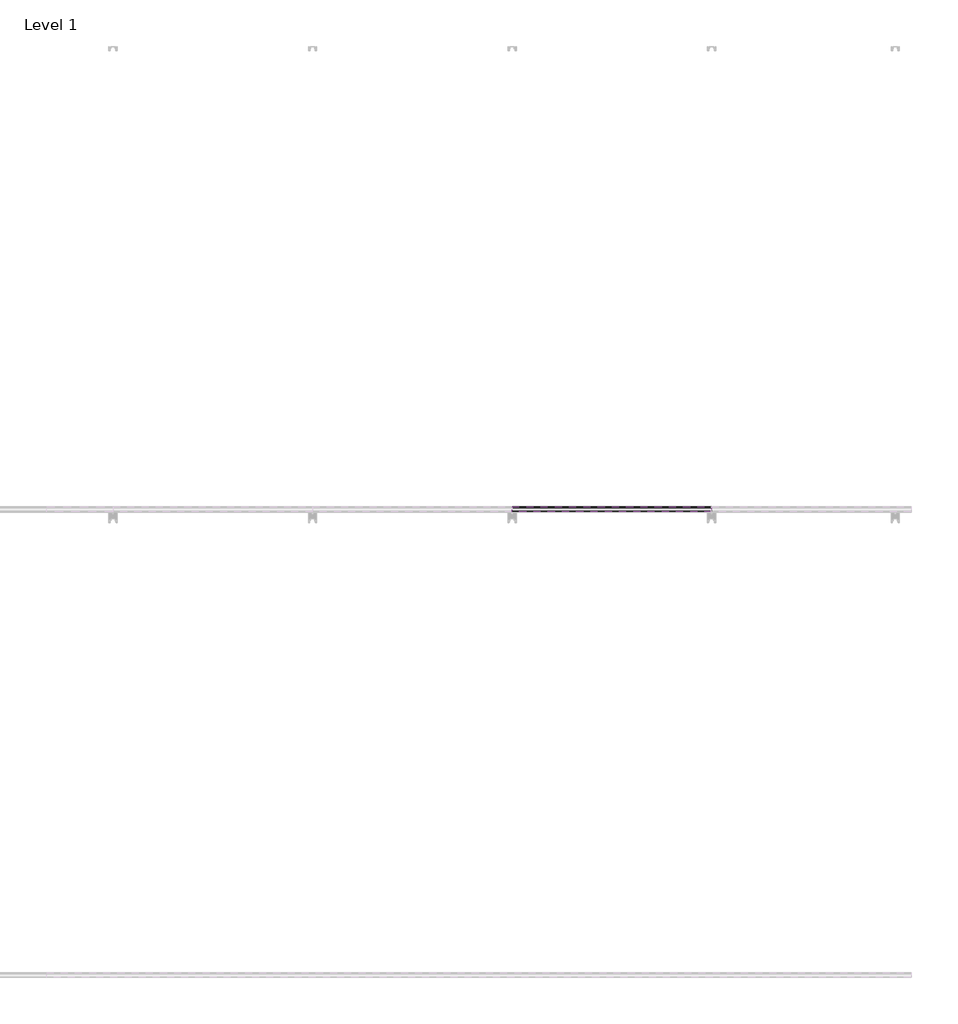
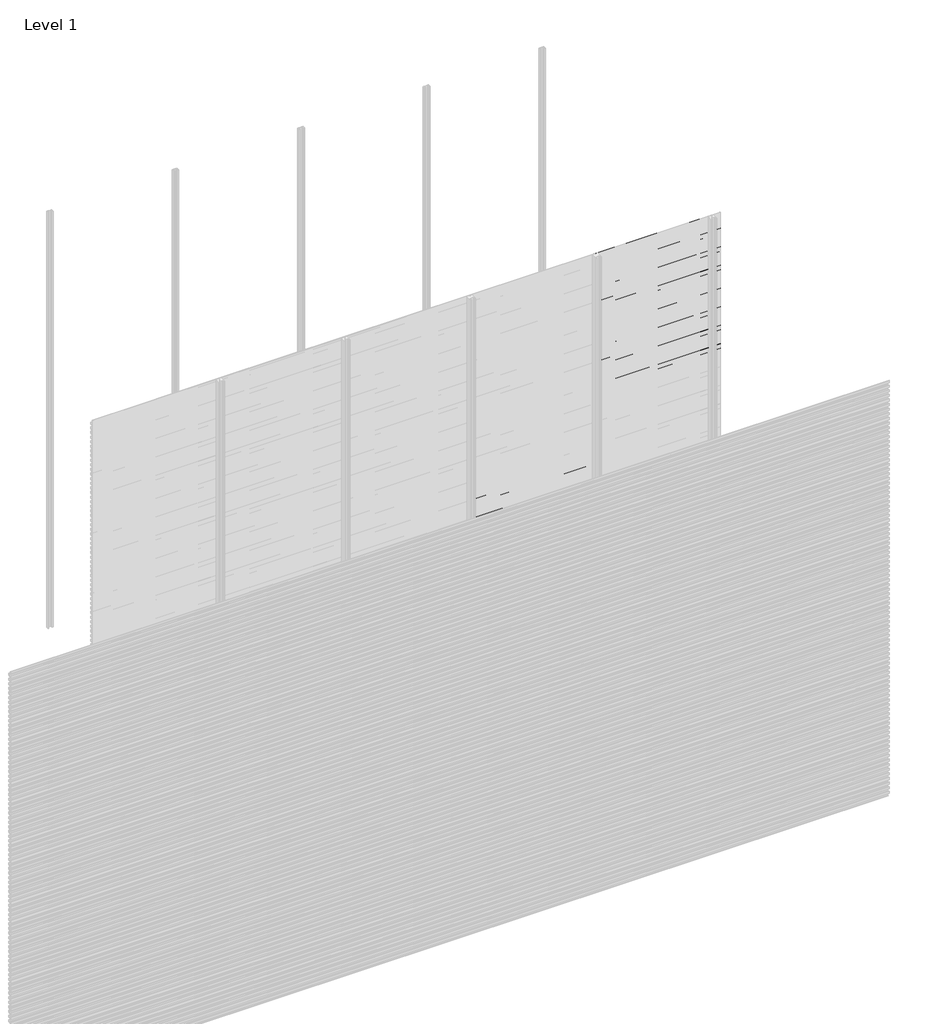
# One storey, part 77 of 96: 77 proxies.
"""IFC4 building model written with IfcOpenShell, lengths in millimetres."""

from ifc_helpers import new_model, si_unit, frame, origin, place, context, project, spatial, polyline, outline, extrude, element, save

model = new_model("IFC4")

# Units and contexts
model_context = context("Model", 3, world=origin())
ifc_project = project(units=[si_unit("LENGTHUNIT", "METRE", prefix="MILLI")], contexts=[model_context])

# Site, building, storey
site = spatial("IfcSite", under=ifc_project)
building = spatial("IfcBuilding", under=site)
storey = spatial("IfcBuildingStorey", under=building, Name="Level 1", Elevation=0.0)

# Proxies
placement = place(None, origin())
element("IfcBuildingElementProxy", 1, Name="Wall Sweeps", at=placement, inside=storey, context=model_context, shape_type="SweptSolid", body=[
    extrude(outline(polyline([(-11977.6, 1539.8655033), (-11977.6, 1525.5779188), (-11982.4114965, 1522.8), (-11982.4114965, 1524.0701706), (-11978.85, 1526.1264016), (-11978.85, 1539.1437382), (-11998.0, 1550.2000799), (-11998.0, 1565.1), (-11996.75, 1565.1), (-11996.75, 1550.9217609), (-11977.6, 1539.8655033)])), frame((4285.7142857, 0.0, 0.0), z_axis=(1.0, 0.0, 0.0), x_axis=(0.0, 1.0, 0.0)), (0.0, 0.0, 1.0), 857.1428571),
])
element("IfcBuildingElementProxy", 2, Name="Wall Sweeps", at=placement, inside=storey, context=model_context, shape_type="SweptSolid", body=[
    extrude(outline(polyline([(-11977.6, 1506.5655033), (-11977.6, 1492.2779188), (-11982.4114965, 1489.5), (-11982.4114965, 1490.7701706), (-11978.85, 1492.8264016), (-11978.85, 1505.8437382), (-11998.0, 1516.9000799), (-11998.0, 1531.8), (-11996.75, 1531.8), (-11996.75, 1517.6217609), (-11977.6, 1506.5655033)])), frame((4285.7142857, 0.0, 0.0), z_axis=(1.0, 0.0, 0.0), x_axis=(0.0, 1.0, 0.0)), (0.0, 0.0, 1.0), 857.1428571),
])
element("IfcBuildingElementProxy", 3, Name="Wall Sweeps", at=placement, inside=storey, context=model_context, shape_type="SweptSolid", body=[
    extrude(outline(polyline([(-11977.6, 1473.2655033), (-11977.6, 1458.9779188), (-11982.4114965, 1456.2), (-11982.4114965, 1457.4701706), (-11978.85, 1459.5264016), (-11978.85, 1472.5437382), (-11998.0, 1483.6000799), (-11998.0, 1498.5), (-11996.75, 1498.5), (-11996.75, 1484.3217609), (-11977.6, 1473.2655033)])), frame((4285.7142857, 0.0, 0.0), z_axis=(1.0, 0.0, 0.0), x_axis=(0.0, 1.0, 0.0)), (0.0, 0.0, 1.0), 857.1428571),
])
element("IfcBuildingElementProxy", 4, Name="Wall Sweeps", at=placement, inside=storey, context=model_context, shape_type="SweptSolid", body=[
    extrude(outline(polyline([(-11977.6, 1439.9655033), (-11977.6, 1425.6779188), (-11982.4114965, 1422.9), (-11982.4114965, 1424.1701706), (-11978.85, 1426.2264016), (-11978.85, 1439.2437382), (-11998.0, 1450.3000799), (-11998.0, 1465.2), (-11996.75, 1465.2), (-11996.75, 1451.0217609), (-11977.6, 1439.9655033)])), frame((4285.7142857, 0.0, 0.0), z_axis=(1.0, 0.0, 0.0), x_axis=(0.0, 1.0, 0.0)), (0.0, 0.0, 1.0), 857.1428571),
])
element("IfcBuildingElementProxy", 5, Name="Wall Sweeps", at=placement, inside=storey, context=model_context, shape_type="SweptSolid", body=[
    extrude(outline(polyline([(-11977.6, 1406.6655033), (-11977.6, 1392.3779188), (-11982.4114965, 1389.6), (-11982.4114965, 1390.8701706), (-11978.85, 1392.9264016), (-11978.85, 1405.9437382), (-11998.0, 1417.0000799), (-11998.0, 1431.9), (-11996.75, 1431.9), (-11996.75, 1417.7217609), (-11977.6, 1406.6655033)])), frame((4285.7142857, 0.0, 0.0), z_axis=(1.0, 0.0, 0.0), x_axis=(0.0, 1.0, 0.0)), (0.0, 0.0, 1.0), 857.1428571),
])
element("IfcBuildingElementProxy", 6, Name="Wall Sweeps", at=placement, inside=storey, context=model_context, shape_type="SweptSolid", body=[
    extrude(outline(polyline([(-11977.6, 1373.3655033), (-11977.6, 1359.0779188), (-11982.4114965, 1356.3), (-11982.4114965, 1357.5701706), (-11978.85, 1359.6264016), (-11978.85, 1372.6437382), (-11998.0, 1383.7000799), (-11998.0, 1398.6), (-11996.75, 1398.6), (-11996.75, 1384.4217609), (-11977.6, 1373.3655033)])), frame((4285.7142857, 0.0, 0.0), z_axis=(1.0, 0.0, 0.0), x_axis=(0.0, 1.0, 0.0)), (0.0, 0.0, 1.0), 857.1428571),
])
element("IfcBuildingElementProxy", 7, Name="Wall Sweeps", at=placement, inside=storey, context=model_context, shape_type="SweptSolid", body=[
    extrude(outline(polyline([(-11977.6, 1340.0655033), (-11977.6, 1325.7779188), (-11982.4114965, 1323.0), (-11982.4114965, 1324.2701706), (-11978.85, 1326.3264016), (-11978.85, 1339.3437382), (-11998.0, 1350.4000799), (-11998.0, 1365.3), (-11996.75, 1365.3), (-11996.75, 1351.1217609), (-11977.6, 1340.0655033)])), frame((4285.7142857, 0.0, 0.0), z_axis=(1.0, 0.0, 0.0), x_axis=(0.0, 1.0, 0.0)), (0.0, 0.0, 1.0), 857.1428571),
])
element("IfcBuildingElementProxy", 8, Name="Wall Sweeps", at=placement, inside=storey, context=model_context, shape_type="SweptSolid", body=[
    extrude(outline(polyline([(-11977.6, 1306.7655033), (-11977.6, 1292.4779188), (-11982.4114965, 1289.7), (-11982.4114965, 1290.9701706), (-11978.85, 1293.0264016), (-11978.85, 1306.0437382), (-11998.0, 1317.1000799), (-11998.0, 1332.0), (-11996.75, 1332.0), (-11996.75, 1317.8217609), (-11977.6, 1306.7655033)])), frame((4285.7142857, 0.0, 0.0), z_axis=(1.0, 0.0, 0.0), x_axis=(0.0, 1.0, 0.0)), (0.0, 0.0, 1.0), 857.1428571),
])
element("IfcBuildingElementProxy", 9, Name="Wall Sweeps", at=placement, inside=storey, context=model_context, shape_type="SweptSolid", body=[
    extrude(outline(polyline([(-11977.6, 1273.4655033), (-11977.6, 1259.1779188), (-11982.4114965, 1256.4), (-11982.4114965, 1257.6701706), (-11978.85, 1259.7264016), (-11978.85, 1272.7437382), (-11998.0, 1283.8000799), (-11998.0, 1298.7), (-11996.75, 1298.7), (-11996.75, 1284.5217609), (-11977.6, 1273.4655033)])), frame((4285.7142857, 0.0, 0.0), z_axis=(1.0, 0.0, 0.0), x_axis=(0.0, 1.0, 0.0)), (0.0, 0.0, 1.0), 857.1428571),
])
element("IfcBuildingElementProxy", 10, Name="Wall Sweeps", at=placement, inside=storey, context=model_context, shape_type="SweptSolid", body=[
    extrude(outline(polyline([(-11977.6, 1240.1655033), (-11977.6, 1225.8779188), (-11982.4114965, 1223.1), (-11982.4114965, 1224.3701706), (-11978.85, 1226.4264016), (-11978.85, 1239.4437382), (-11998.0, 1250.5000799), (-11998.0, 1265.4), (-11996.75, 1265.4), (-11996.75, 1251.2217609), (-11977.6, 1240.1655033)])), frame((4285.7142857, 0.0, 0.0), z_axis=(1.0, 0.0, 0.0), x_axis=(0.0, 1.0, 0.0)), (0.0, 0.0, 1.0), 857.1428571),
])
element("IfcBuildingElementProxy", 11, Name="Wall Sweeps", at=placement, inside=storey, context=model_context, shape_type="SweptSolid", body=[
    extrude(outline(polyline([(-11977.6, 1206.8655033), (-11977.6, 1192.5779188), (-11982.4114965, 1189.8), (-11982.4114965, 1191.0701706), (-11978.85, 1193.1264016), (-11978.85, 1206.1437382), (-11998.0, 1217.2000799), (-11998.0, 1232.1), (-11996.75, 1232.1), (-11996.75, 1217.9217609), (-11977.6, 1206.8655033)])), frame((4285.7142857, 0.0, 0.0), z_axis=(1.0, 0.0, 0.0), x_axis=(0.0, 1.0, 0.0)), (0.0, 0.0, 1.0), 857.1428571),
])
element("IfcBuildingElementProxy", 12, Name="Wall Sweeps", at=placement, inside=storey, context=model_context, shape_type="SweptSolid", body=[
    extrude(outline(polyline([(-11977.6, 1173.5655033), (-11977.6, 1159.2779188), (-11982.4114965, 1156.5), (-11982.4114965, 1157.7701706), (-11978.85, 1159.8264016), (-11978.85, 1172.8437382), (-11998.0, 1183.9000799), (-11998.0, 1198.8), (-11996.75, 1198.8), (-11996.75, 1184.6217609), (-11977.6, 1173.5655033)])), frame((4285.7142857, 0.0, 0.0), z_axis=(1.0, 0.0, 0.0), x_axis=(0.0, 1.0, 0.0)), (0.0, 0.0, 1.0), 857.1428571),
])
element("IfcBuildingElementProxy", 13, Name="Wall Sweeps", at=placement, inside=storey, context=model_context, shape_type="SweptSolid", body=[
    extrude(outline(polyline([(-11977.6, 1140.2655033), (-11977.6, 1125.9779188), (-11982.4114965, 1123.2), (-11982.4114965, 1124.4701706), (-11978.85, 1126.5264016), (-11978.85, 1139.5437382), (-11998.0, 1150.6000799), (-11998.0, 1165.5), (-11996.75, 1165.5), (-11996.75, 1151.3217609), (-11977.6, 1140.2655033)])), frame((4285.7142857, 0.0, 0.0), z_axis=(1.0, 0.0, 0.0), x_axis=(0.0, 1.0, 0.0)), (0.0, 0.0, 1.0), 857.1428571),
])
element("IfcBuildingElementProxy", 14, Name="Wall Sweeps", at=placement, inside=storey, context=model_context, shape_type="SweptSolid", body=[
    extrude(outline(polyline([(-11977.6, 1106.9655033), (-11977.6, 1092.6779188), (-11982.4114965, 1089.9), (-11982.4114965, 1091.1701706), (-11978.85, 1093.2264016), (-11978.85, 1106.2437382), (-11998.0, 1117.3000799), (-11998.0, 1132.2), (-11996.75, 1132.2), (-11996.75, 1118.0217609), (-11977.6, 1106.9655033)])), frame((4285.7142857, 0.0, 0.0), z_axis=(1.0, 0.0, 0.0), x_axis=(0.0, 1.0, 0.0)), (0.0, 0.0, 1.0), 857.1428571),
])
element("IfcBuildingElementProxy", 15, Name="Wall Sweeps", at=placement, inside=storey, context=model_context, shape_type="SweptSolid", body=[
    extrude(outline(polyline([(-11977.6, 1073.6655033), (-11977.6, 1059.3779188), (-11982.4114965, 1056.6), (-11982.4114965, 1057.8701706), (-11978.85, 1059.9264016), (-11978.85, 1072.9437382), (-11998.0, 1084.0000799), (-11998.0, 1098.9), (-11996.75, 1098.9), (-11996.75, 1084.7217609), (-11977.6, 1073.6655033)])), frame((4285.7142857, 0.0, 0.0), z_axis=(1.0, 0.0, 0.0), x_axis=(0.0, 1.0, 0.0)), (0.0, 0.0, 1.0), 857.1428571),
])
element("IfcBuildingElementProxy", 16, Name="Wall Sweeps", at=placement, inside=storey, context=model_context, shape_type="SweptSolid", body=[
    extrude(outline(polyline([(-11977.6, 1040.3655033), (-11977.6, 1026.0779188), (-11982.4114965, 1023.3), (-11982.4114965, 1024.5701706), (-11978.85, 1026.6264016), (-11978.85, 1039.6437382), (-11998.0, 1050.7000799), (-11998.0, 1065.6), (-11996.75, 1065.6), (-11996.75, 1051.4217609), (-11977.6, 1040.3655033)])), frame((4285.7142857, 0.0, 0.0), z_axis=(1.0, 0.0, 0.0), x_axis=(0.0, 1.0, 0.0)), (0.0, 0.0, 1.0), 857.1428571),
])
element("IfcBuildingElementProxy", 17, Name="Wall Sweeps", at=placement, inside=storey, context=model_context, shape_type="SweptSolid", body=[
    extrude(outline(polyline([(-11977.6, 1007.0655033), (-11977.6, 992.7779188), (-11982.4114965, 990.0), (-11982.4114965, 991.2701706), (-11978.85, 993.3264016), (-11978.85, 1006.3437382), (-11998.0, 1017.4000799), (-11998.0, 1032.3), (-11996.75, 1032.3), (-11996.75, 1018.1217609), (-11977.6, 1007.0655033)])), frame((4285.7142857, 0.0, 0.0), z_axis=(1.0, 0.0, 0.0), x_axis=(0.0, 1.0, 0.0)), (0.0, 0.0, 1.0), 857.1428571),
])
element("IfcBuildingElementProxy", 18, Name="Wall Sweeps", at=placement, inside=storey, context=model_context, shape_type="SweptSolid", body=[
    extrude(outline(polyline([(-11977.6, 973.7655033), (-11977.6, 959.4779188), (-11982.4114965, 956.7), (-11982.4114965, 957.9701706), (-11978.85, 960.0264016), (-11978.85, 973.0437382), (-11998.0, 984.1000799), (-11998.0, 999.0), (-11996.75, 999.0), (-11996.75, 984.8217609), (-11977.6, 973.7655033)])), frame((4285.7142857, 0.0, 0.0), z_axis=(1.0, 0.0, 0.0), x_axis=(0.0, 1.0, 0.0)), (0.0, 0.0, 1.0), 857.1428571),
])
element("IfcBuildingElementProxy", 19, Name="Wall Sweeps", at=placement, inside=storey, context=model_context, shape_type="SweptSolid", body=[
    extrude(outline(polyline([(-11977.6, 940.4655033), (-11977.6, 926.1779188), (-11982.4114965, 923.4), (-11982.4114965, 924.6701706), (-11978.85, 926.7264016), (-11978.85, 939.7437382), (-11998.0, 950.8000799), (-11998.0, 965.7), (-11996.75, 965.7), (-11996.75, 951.5217609), (-11977.6, 940.4655033)])), frame((4285.7142857, 0.0, 0.0), z_axis=(1.0, 0.0, 0.0), x_axis=(0.0, 1.0, 0.0)), (0.0, 0.0, 1.0), 857.1428571),
])
element("IfcBuildingElementProxy", 20, Name="Wall Sweeps", at=placement, inside=storey, context=model_context, shape_type="SweptSolid", body=[
    extrude(outline(polyline([(-11977.6, 907.1655033), (-11977.6, 892.8779188), (-11982.4114965, 890.1), (-11982.4114965, 891.3701706), (-11978.85, 893.4264016), (-11978.85, 906.4437382), (-11998.0, 917.5000799), (-11998.0, 932.4), (-11996.75, 932.4), (-11996.75, 918.2217609), (-11977.6, 907.1655033)])), frame((4285.7142857, 0.0, 0.0), z_axis=(1.0, 0.0, 0.0), x_axis=(0.0, 1.0, 0.0)), (0.0, 0.0, 1.0), 857.1428571),
])
element("IfcBuildingElementProxy", 21, Name="Wall Sweeps", at=placement, inside=storey, context=model_context, shape_type="SweptSolid", body=[
    extrude(outline(polyline([(-11977.6, 873.8655033), (-11977.6, 859.5779188), (-11982.4114965, 856.8), (-11982.4114965, 858.0701706), (-11978.85, 860.1264016), (-11978.85, 873.1437382), (-11998.0, 884.2000799), (-11998.0, 899.1), (-11996.75, 899.1), (-11996.75, 884.9217609), (-11977.6, 873.8655033)])), frame((4285.7142857, 0.0, 0.0), z_axis=(1.0, 0.0, 0.0), x_axis=(0.0, 1.0, 0.0)), (0.0, 0.0, 1.0), 857.1428571),
])
element("IfcBuildingElementProxy", 22, Name="Wall Sweeps", at=placement, inside=storey, context=model_context, shape_type="SweptSolid", body=[
    extrude(outline(polyline([(-11977.6, 840.5655033), (-11977.6, 826.2779188), (-11982.4114965, 823.5), (-11982.4114965, 824.7701706), (-11978.85, 826.8264016), (-11978.85, 839.8437382), (-11998.0, 850.9000799), (-11998.0, 865.8), (-11996.75, 865.8), (-11996.75, 851.6217609), (-11977.6, 840.5655033)])), frame((4285.7142857, 0.0, 0.0), z_axis=(1.0, 0.0, 0.0), x_axis=(0.0, 1.0, 0.0)), (0.0, 0.0, 1.0), 857.1428571),
])
element("IfcBuildingElementProxy", 23, Name="Wall Sweeps", at=placement, inside=storey, context=model_context, shape_type="SweptSolid", body=[
    extrude(outline(polyline([(-11977.6, 807.2655033), (-11977.6, 792.9779188), (-11982.4114965, 790.2), (-11982.4114965, 791.4701706), (-11978.85, 793.5264016), (-11978.85, 806.5437382), (-11998.0, 817.6000799), (-11998.0, 832.5), (-11996.75, 832.5), (-11996.75, 818.3217609), (-11977.6, 807.2655033)])), frame((4285.7142857, 0.0, 0.0), z_axis=(1.0, 0.0, 0.0), x_axis=(0.0, 1.0, 0.0)), (0.0, 0.0, 1.0), 857.1428571),
])
element("IfcBuildingElementProxy", 24, Name="Wall Sweeps", at=placement, inside=storey, context=model_context, shape_type="SweptSolid", body=[
    extrude(outline(polyline([(-11977.6, 773.9655033), (-11977.6, 759.6779188), (-11982.4114965, 756.9), (-11982.4114965, 758.1701706), (-11978.85, 760.2264016), (-11978.85, 773.2437382), (-11998.0, 784.3000799), (-11998.0, 799.2), (-11996.75, 799.2), (-11996.75, 785.0217609), (-11977.6, 773.9655033)])), frame((4285.7142857, 0.0, 0.0), z_axis=(1.0, 0.0, 0.0), x_axis=(0.0, 1.0, 0.0)), (0.0, 0.0, 1.0), 857.1428571),
])
element("IfcBuildingElementProxy", 25, Name="Wall Sweeps", at=placement, inside=storey, context=model_context, shape_type="SweptSolid", body=[
    extrude(outline(polyline([(-11977.6, 740.6655033), (-11977.6, 726.3779188), (-11982.4114965, 723.6), (-11982.4114965, 724.8701706), (-11978.85, 726.9264016), (-11978.85, 739.9437382), (-11998.0, 751.0000799), (-11998.0, 765.9), (-11996.75, 765.9), (-11996.75, 751.7217609), (-11977.6, 740.6655033)])), frame((4285.7142857, 0.0, 0.0), z_axis=(1.0, 0.0, 0.0), x_axis=(0.0, 1.0, 0.0)), (0.0, 0.0, 1.0), 857.1428571),
])
element("IfcBuildingElementProxy", 26, Name="Wall Sweeps", at=placement, inside=storey, context=model_context, shape_type="SweptSolid", body=[
    extrude(outline(polyline([(-11977.6, 707.3655033), (-11977.6, 693.0779188), (-11982.4114965, 690.3), (-11982.4114965, 691.5701706), (-11978.85, 693.6264016), (-11978.85, 706.6437382), (-11998.0, 717.7000799), (-11998.0, 732.6), (-11996.75, 732.6), (-11996.75, 718.4217609), (-11977.6, 707.3655033)])), frame((4285.7142857, 0.0, 0.0), z_axis=(1.0, 0.0, 0.0), x_axis=(0.0, 1.0, 0.0)), (0.0, 0.0, 1.0), 857.1428571),
])
element("IfcBuildingElementProxy", 27, Name="Wall Sweeps", at=placement, inside=storey, context=model_context, shape_type="SweptSolid", body=[
    extrude(outline(polyline([(-11977.6, 674.0655033), (-11977.6, 659.7779188), (-11982.4114965, 657.0), (-11982.4114965, 658.2701706), (-11978.85, 660.3264016), (-11978.85, 673.3437382), (-11998.0, 684.4000799), (-11998.0, 699.3), (-11996.75, 699.3), (-11996.75, 685.1217609), (-11977.6, 674.0655033)])), frame((4285.7142857, 0.0, 0.0), z_axis=(1.0, 0.0, 0.0), x_axis=(0.0, 1.0, 0.0)), (0.0, 0.0, 1.0), 857.1428571),
])
element("IfcBuildingElementProxy", 28, Name="Wall Sweeps", at=placement, inside=storey, context=model_context, shape_type="SweptSolid", body=[
    extrude(outline(polyline([(-11977.6, 640.7655033), (-11977.6, 626.4779188), (-11982.4114965, 623.7), (-11982.4114965, 624.9701706), (-11978.85, 627.0264016), (-11978.85, 640.0437382), (-11998.0, 651.1000799), (-11998.0, 666.0), (-11996.75, 666.0), (-11996.75, 651.8217609), (-11977.6, 640.7655033)])), frame((4285.7142857, 0.0, 0.0), z_axis=(1.0, 0.0, 0.0), x_axis=(0.0, 1.0, 0.0)), (0.0, 0.0, 1.0), 857.1428571),
])
element("IfcBuildingElementProxy", 29, Name="Wall Sweeps", at=placement, inside=storey, context=model_context, shape_type="SweptSolid", body=[
    extrude(outline(polyline([(-11977.6, 607.4655033), (-11977.6, 593.1779188), (-11982.4114965, 590.4), (-11982.4114965, 591.6701706), (-11978.85, 593.7264016), (-11978.85, 606.7437382), (-11998.0, 617.8000799), (-11998.0, 632.7), (-11996.75, 632.7), (-11996.75, 618.5217609), (-11977.6, 607.4655033)])), frame((4285.7142857, 0.0, 0.0), z_axis=(1.0, 0.0, 0.0), x_axis=(0.0, 1.0, 0.0)), (0.0, 0.0, 1.0), 857.1428571),
])
element("IfcBuildingElementProxy", 30, Name="Wall Sweeps", at=placement, inside=storey, context=model_context, shape_type="SweptSolid", body=[
    extrude(outline(polyline([(-11977.6, 574.1655033), (-11977.6, 559.8779188), (-11982.4114965, 557.1), (-11982.4114965, 558.3701706), (-11978.85, 560.4264016), (-11978.85, 573.4437382), (-11998.0, 584.5000799), (-11998.0, 599.4), (-11996.75, 599.4), (-11996.75, 585.2217609), (-11977.6, 574.1655033)])), frame((4285.7142857, 0.0, 0.0), z_axis=(1.0, 0.0, 0.0), x_axis=(0.0, 1.0, 0.0)), (0.0, 0.0, 1.0), 857.1428571),
])
element("IfcBuildingElementProxy", 31, Name="Wall Sweeps", at=placement, inside=storey, context=model_context, shape_type="SweptSolid", body=[
    extrude(outline(polyline([(-11977.6, 540.8655033), (-11977.6, 526.5779188), (-11982.4114965, 523.8), (-11982.4114965, 525.0701706), (-11978.85, 527.1264016), (-11978.85, 540.1437382), (-11998.0, 551.2000799), (-11998.0, 566.1), (-11996.75, 566.1), (-11996.75, 551.9217609), (-11977.6, 540.8655033)])), frame((4285.7142857, 0.0, 0.0), z_axis=(1.0, 0.0, 0.0), x_axis=(0.0, 1.0, 0.0)), (0.0, 0.0, 1.0), 857.1428571),
])
element("IfcBuildingElementProxy", 32, Name="Wall Sweeps", at=placement, inside=storey, context=model_context, shape_type="SweptSolid", body=[
    extrude(outline(polyline([(-11977.6, 507.5655033), (-11977.6, 493.2779188), (-11982.4114965, 490.5), (-11982.4114965, 491.7701706), (-11978.85, 493.8264016), (-11978.85, 506.8437382), (-11998.0, 517.9000799), (-11998.0, 532.8), (-11996.75, 532.8), (-11996.75, 518.6217609), (-11977.6, 507.5655033)])), frame((4285.7142857, 0.0, 0.0), z_axis=(1.0, 0.0, 0.0), x_axis=(0.0, 1.0, 0.0)), (0.0, 0.0, 1.0), 857.1428571),
])
element("IfcBuildingElementProxy", 33, Name="Wall Sweeps", at=placement, inside=storey, context=model_context, shape_type="SweptSolid", body=[
    extrude(outline(polyline([(-11977.6, 474.2655033), (-11977.6, 459.9779188), (-11982.4114965, 457.2), (-11982.4114965, 458.4701706), (-11978.85, 460.5264016), (-11978.85, 473.5437382), (-11998.0, 484.6000799), (-11998.0, 499.5), (-11996.75, 499.5), (-11996.75, 485.3217609), (-11977.6, 474.2655033)])), frame((4285.7142857, 0.0, 0.0), z_axis=(1.0, 0.0, 0.0), x_axis=(0.0, 1.0, 0.0)), (0.0, 0.0, 1.0), 857.1428571),
])
element("IfcBuildingElementProxy", 34, Name="Wall Sweeps", at=placement, inside=storey, context=model_context, shape_type="SweptSolid", body=[
    extrude(outline(polyline([(-11977.6, 440.9655033), (-11977.6, 426.6779188), (-11982.4114965, 423.9), (-11982.4114965, 425.1701706), (-11978.85, 427.2264016), (-11978.85, 440.2437382), (-11998.0, 451.3000799), (-11998.0, 466.2), (-11996.75, 466.2), (-11996.75, 452.0217609), (-11977.6, 440.9655033)])), frame((4285.7142857, 0.0, 0.0), z_axis=(1.0, 0.0, 0.0), x_axis=(0.0, 1.0, 0.0)), (0.0, 0.0, 1.0), 857.1428571),
])
element("IfcBuildingElementProxy", 35, Name="Wall Sweeps", at=placement, inside=storey, context=model_context, shape_type="SweptSolid", body=[
    extrude(outline(polyline([(-11977.6, 407.6655033), (-11977.6, 393.3779188), (-11982.4114965, 390.6), (-11982.4114965, 391.8701706), (-11978.85, 393.9264016), (-11978.85, 406.9437382), (-11998.0, 418.0000799), (-11998.0, 432.9), (-11996.75, 432.9), (-11996.75, 418.7217609), (-11977.6, 407.6655033)])), frame((4285.7142857, 0.0, 0.0), z_axis=(1.0, 0.0, 0.0), x_axis=(0.0, 1.0, 0.0)), (0.0, 0.0, 1.0), 857.1428571),
])
element("IfcBuildingElementProxy", 36, Name="Wall Sweeps", at=placement, inside=storey, context=model_context, shape_type="SweptSolid", body=[
    extrude(outline(polyline([(-11977.6, 374.3655033), (-11977.6, 360.0779188), (-11982.4114965, 357.3), (-11982.4114965, 358.5701706), (-11978.85, 360.6264016), (-11978.85, 373.6437382), (-11998.0, 384.7000799), (-11998.0, 399.6), (-11996.75, 399.6), (-11996.75, 385.4217609), (-11977.6, 374.3655033)])), frame((4285.7142857, 0.0, 0.0), z_axis=(1.0, 0.0, 0.0), x_axis=(0.0, 1.0, 0.0)), (0.0, 0.0, 1.0), 857.1428571),
])
element("IfcBuildingElementProxy", 37, Name="Wall Sweeps", at=placement, inside=storey, context=model_context, shape_type="SweptSolid", body=[
    extrude(outline(polyline([(-11977.6, 341.0655033), (-11977.6, 326.7779188), (-11982.4114965, 324.0), (-11982.4114965, 325.2701706), (-11978.85, 327.3264016), (-11978.85, 340.3437382), (-11998.0, 351.4000799), (-11998.0, 366.3), (-11996.75, 366.3), (-11996.75, 352.1217609), (-11977.6, 341.0655033)])), frame((4285.7142857, 0.0, 0.0), z_axis=(1.0, 0.0, 0.0), x_axis=(0.0, 1.0, 0.0)), (0.0, 0.0, 1.0), 857.1428571),
])
element("IfcBuildingElementProxy", 38, Name="Wall Sweeps", at=placement, inside=storey, context=model_context, shape_type="SweptSolid", body=[
    extrude(outline(polyline([(-11977.6, 307.7655033), (-11977.6, 293.4779188), (-11982.4114965, 290.7), (-11982.4114965, 291.9701706), (-11978.85, 294.0264016), (-11978.85, 307.0437382), (-11998.0, 318.1000799), (-11998.0, 333.0), (-11996.75, 333.0), (-11996.75, 318.8217609), (-11977.6, 307.7655033)])), frame((4285.7142857, 0.0, 0.0), z_axis=(1.0, 0.0, 0.0), x_axis=(0.0, 1.0, 0.0)), (0.0, 0.0, 1.0), 857.1428571),
])
element("IfcBuildingElementProxy", 39, Name="Wall Sweeps", at=placement, inside=storey, context=model_context, shape_type="SweptSolid", body=[
    extrude(outline(polyline([(-11977.6, 274.4655033), (-11977.6, 260.1779188), (-11982.4114965, 257.4), (-11982.4114965, 258.6701706), (-11978.85, 260.7264016), (-11978.85, 273.7437382), (-11998.0, 284.8000799), (-11998.0, 299.7), (-11996.75, 299.7), (-11996.75, 285.5217609), (-11977.6, 274.4655033)])), frame((4285.7142857, 0.0, 0.0), z_axis=(1.0, 0.0, 0.0), x_axis=(0.0, 1.0, 0.0)), (0.0, 0.0, 1.0), 857.1428571),
])
element("IfcBuildingElementProxy", 40, Name="Wall Sweeps", at=placement, inside=storey, context=model_context, shape_type="SweptSolid", body=[
    extrude(outline(polyline([(-11977.6, 241.1655033), (-11977.6, 226.8779188), (-11982.4114965, 224.1), (-11982.4114965, 225.3701706), (-11978.85, 227.4264016), (-11978.85, 240.4437382), (-11998.0, 251.5000799), (-11998.0, 266.4), (-11996.75, 266.4), (-11996.75, 252.2217609), (-11977.6, 241.1655033)])), frame((4285.7142857, 0.0, 0.0), z_axis=(1.0, 0.0, 0.0), x_axis=(0.0, 1.0, 0.0)), (0.0, 0.0, 1.0), 857.1428571),
])
element("IfcBuildingElementProxy", 41, Name="Wall Sweeps", at=placement, inside=storey, context=model_context, shape_type="SweptSolid", body=[
    extrude(outline(polyline([(-11977.6, 207.8655033), (-11977.6, 193.5779188), (-11982.4114965, 190.8), (-11982.4114965, 192.0701706), (-11978.85, 194.1264016), (-11978.85, 207.1437382), (-11998.0, 218.2000799), (-11998.0, 233.1), (-11996.75, 233.1), (-11996.75, 218.9217609), (-11977.6, 207.8655033)])), frame((4285.7142857, 0.0, 0.0), z_axis=(1.0, 0.0, 0.0), x_axis=(0.0, 1.0, 0.0)), (0.0, 0.0, 1.0), 857.1428571),
])
element("IfcBuildingElementProxy", 42, Name="Wall Sweeps", at=placement, inside=storey, context=model_context, shape_type="SweptSolid", body=[
    extrude(outline(polyline([(-11977.6, 174.5655033), (-11977.6, 160.2779188), (-11982.4114965, 157.5), (-11982.4114965, 158.7701706), (-11978.85, 160.8264016), (-11978.85, 173.8437382), (-11998.0, 184.9000799), (-11998.0, 199.8), (-11996.75, 199.8), (-11996.75, 185.6217609), (-11977.6, 174.5655033)])), frame((4285.7142857, 0.0, 0.0), z_axis=(1.0, 0.0, 0.0), x_axis=(0.0, 1.0, 0.0)), (0.0, 0.0, 1.0), 857.1428571),
])
element("IfcBuildingElementProxy", 43, Name="Wall Sweeps", at=placement, inside=storey, context=model_context, shape_type="SweptSolid", body=[
    extrude(outline(polyline([(-11977.6, 141.2655033), (-11977.6, 126.9779188), (-11982.4114965, 124.2), (-11982.4114965, 125.4701706), (-11978.85, 127.5264016), (-11978.85, 140.5437382), (-11998.0, 151.6000799), (-11998.0, 166.5), (-11996.75, 166.5), (-11996.75, 152.3217609), (-11977.6, 141.2655033)])), frame((4285.7142857, 0.0, 0.0), z_axis=(1.0, 0.0, 0.0), x_axis=(0.0, 1.0, 0.0)), (0.0, 0.0, 1.0), 857.1428571),
])
element("IfcBuildingElementProxy", 44, Name="Wall Sweeps", at=placement, inside=storey, context=model_context, shape_type="SweptSolid", body=[
    extrude(outline(polyline([(-11977.6, 107.9655033), (-11977.6, 93.6779188), (-11982.4114965, 90.9), (-11982.4114965, 92.1701706), (-11978.85, 94.2264016), (-11978.85, 107.2437382), (-11998.0, 118.3000799), (-11998.0, 133.2), (-11996.75, 133.2), (-11996.75, 119.0217609), (-11977.6, 107.9655033)])), frame((4285.7142857, 0.0, 0.0), z_axis=(1.0, 0.0, 0.0), x_axis=(0.0, 1.0, 0.0)), (0.0, 0.0, 1.0), 857.1428571),
])
element("IfcBuildingElementProxy", 45, Name="Wall Sweeps", at=placement, inside=storey, context=model_context, shape_type="SweptSolid", body=[
    extrude(outline(polyline([(-11977.6, 74.6655033), (-11977.6, 60.3779188), (-11982.4114965, 57.6), (-11982.4114965, 58.8701706), (-11978.85, 60.9264016), (-11978.85, 73.9437382), (-11998.0, 85.0000799), (-11998.0, 99.9), (-11996.75, 99.9), (-11996.75, 85.7217609), (-11977.6, 74.6655033)])), frame((4285.7142857, 0.0, 0.0), z_axis=(1.0, 0.0, 0.0), x_axis=(0.0, 1.0, 0.0)), (0.0, 0.0, 1.0), 857.1428571),
])
element("IfcBuildingElementProxy", 46, Name="Wall Sweeps", at=placement, inside=storey, context=model_context, shape_type="SweptSolid", body=[
    extrude(outline(polyline([(-11977.6, 41.3655033), (-11977.6, 27.0779188), (-11982.4114965, 24.3), (-11982.4114965, 25.5701706), (-11978.85, 27.6264016), (-11978.85, 40.6437382), (-11998.0, 51.7000799), (-11998.0, 66.6), (-11996.75, 66.6), (-11996.75, 52.4217609), (-11977.6, 41.3655033)])), frame((4285.7142857, 0.0, 0.0), z_axis=(1.0, 0.0, 0.0), x_axis=(0.0, 1.0, 0.0)), (0.0, 0.0, 1.0), 857.1428571),
])
element("IfcBuildingElementProxy", 47, Name="Wall Sweeps", at=placement, inside=storey, context=model_context, shape_type="SweptSolid", body=[
    extrude(outline(polyline([(-11977.6, 8.0655033), (-11977.6, -6.2220812), (-11982.4114965, -9.0), (-11982.4114965, -7.7298294), (-11978.85, -5.6735984), (-11978.85, 7.3437382), (-11998.0, 18.4000799), (-11998.0, 33.3), (-11996.75, 33.3), (-11996.75, 19.1217609), (-11977.6, 8.0655033)])), frame((4285.7142857, 0.0, 0.0), z_axis=(1.0, 0.0, 0.0), x_axis=(0.0, 1.0, 0.0)), (0.0, 0.0, 1.0), 857.1428571),
])
element("IfcBuildingElementProxy", 48, Name="Wall Sweeps", at=placement, inside=storey, context=model_context, shape_type="SweptSolid", body=[
    extrude(outline(polyline([(-11977.6, 2971.7655033), (-11977.6, 2957.4779188), (-11982.4114965, 2954.7), (-11982.4114965, 2955.9701706), (-11978.85, 2958.0264016), (-11978.85, 2971.0437382), (-11998.0, 2982.1000799), (-11998.0, 2997.0), (-11996.75, 2997.0), (-11996.75, 2982.8217609), (-11977.6, 2971.7655033)])), frame((5142.8571429, 0.0, 0.0), z_axis=(1.0, 0.0, 0.0), x_axis=(0.0, 1.0, 0.0)), (0.0, 0.0, 1.0), 857.1428571),
])
element("IfcBuildingElementProxy", 49, Name="Wall Sweeps", at=placement, inside=storey, context=model_context, shape_type="SweptSolid", body=[
    extrude(outline(polyline([(-11977.6, 2938.4655033), (-11977.6, 2924.1779188), (-11982.4114965, 2921.4), (-11982.4114965, 2922.6701706), (-11978.85, 2924.7264016), (-11978.85, 2937.7437382), (-11998.0, 2948.8000799), (-11998.0, 2963.7), (-11996.75, 2963.7), (-11996.75, 2949.5217609), (-11977.6, 2938.4655033)])), frame((5142.8571429, 0.0, 0.0), z_axis=(1.0, 0.0, 0.0), x_axis=(0.0, 1.0, 0.0)), (0.0, 0.0, 1.0), 857.1428571),
])
element("IfcBuildingElementProxy", 50, Name="Wall Sweeps", at=placement, inside=storey, context=model_context, shape_type="SweptSolid", body=[
    extrude(outline(polyline([(-11977.6, 2905.1655033), (-11977.6, 2890.8779188), (-11982.4114965, 2888.1), (-11982.4114965, 2889.3701706), (-11978.85, 2891.4264016), (-11978.85, 2904.4437382), (-11998.0, 2915.5000799), (-11998.0, 2930.4), (-11996.75, 2930.4), (-11996.75, 2916.2217609), (-11977.6, 2905.1655033)])), frame((5142.8571429, 0.0, 0.0), z_axis=(1.0, 0.0, 0.0), x_axis=(0.0, 1.0, 0.0)), (0.0, 0.0, 1.0), 857.1428571),
])
element("IfcBuildingElementProxy", 51, Name="Wall Sweeps", at=placement, inside=storey, context=model_context, shape_type="SweptSolid", body=[
    extrude(outline(polyline([(-11977.6, 2871.8655033), (-11977.6, 2857.5779188), (-11982.4114965, 2854.8), (-11982.4114965, 2856.0701706), (-11978.85, 2858.1264016), (-11978.85, 2871.1437382), (-11998.0, 2882.2000799), (-11998.0, 2897.1), (-11996.75, 2897.1), (-11996.75, 2882.9217609), (-11977.6, 2871.8655033)])), frame((5142.8571429, 0.0, 0.0), z_axis=(1.0, 0.0, 0.0), x_axis=(0.0, 1.0, 0.0)), (0.0, 0.0, 1.0), 857.1428571),
])
element("IfcBuildingElementProxy", 52, Name="Wall Sweeps", at=placement, inside=storey, context=model_context, shape_type="SweptSolid", body=[
    extrude(outline(polyline([(-11977.6, 2838.5655033), (-11977.6, 2824.2779188), (-11982.4114965, 2821.5), (-11982.4114965, 2822.7701706), (-11978.85, 2824.8264016), (-11978.85, 2837.8437382), (-11998.0, 2848.9000799), (-11998.0, 2863.8), (-11996.75, 2863.8), (-11996.75, 2849.6217609), (-11977.6, 2838.5655033)])), frame((5142.8571429, 0.0, 0.0), z_axis=(1.0, 0.0, 0.0), x_axis=(0.0, 1.0, 0.0)), (0.0, 0.0, 1.0), 857.1428571),
])
element("IfcBuildingElementProxy", 53, Name="Wall Sweeps", at=placement, inside=storey, context=model_context, shape_type="SweptSolid", body=[
    extrude(outline(polyline([(-11977.6, 2805.2655033), (-11977.6, 2790.9779188), (-11982.4114965, 2788.2), (-11982.4114965, 2789.4701706), (-11978.85, 2791.5264016), (-11978.85, 2804.5437382), (-11998.0, 2815.6000799), (-11998.0, 2830.5), (-11996.75, 2830.5), (-11996.75, 2816.3217609), (-11977.6, 2805.2655033)])), frame((5142.8571429, 0.0, 0.0), z_axis=(1.0, 0.0, 0.0), x_axis=(0.0, 1.0, 0.0)), (0.0, 0.0, 1.0), 857.1428571),
])
element("IfcBuildingElementProxy", 54, Name="Wall Sweeps", at=placement, inside=storey, context=model_context, shape_type="SweptSolid", body=[
    extrude(outline(polyline([(-11977.6, 2771.9655033), (-11977.6, 2757.6779188), (-11982.4114965, 2754.9), (-11982.4114965, 2756.1701706), (-11978.85, 2758.2264016), (-11978.85, 2771.2437382), (-11998.0, 2782.3000799), (-11998.0, 2797.2), (-11996.75, 2797.2), (-11996.75, 2783.0217609), (-11977.6, 2771.9655033)])), frame((5142.8571429, 0.0, 0.0), z_axis=(1.0, 0.0, 0.0), x_axis=(0.0, 1.0, 0.0)), (0.0, 0.0, 1.0), 857.1428571),
])
element("IfcBuildingElementProxy", 55, Name="Wall Sweeps", at=placement, inside=storey, context=model_context, shape_type="SweptSolid", body=[
    extrude(outline(polyline([(-11977.6, 2738.6655033), (-11977.6, 2724.3779188), (-11982.4114965, 2721.6), (-11982.4114965, 2722.8701706), (-11978.85, 2724.9264016), (-11978.85, 2737.9437382), (-11998.0, 2749.0000799), (-11998.0, 2763.9), (-11996.75, 2763.9), (-11996.75, 2749.7217609), (-11977.6, 2738.6655033)])), frame((5142.8571429, 0.0, 0.0), z_axis=(1.0, 0.0, 0.0), x_axis=(0.0, 1.0, 0.0)), (0.0, 0.0, 1.0), 857.1428571),
])
element("IfcBuildingElementProxy", 56, Name="Wall Sweeps", at=placement, inside=storey, context=model_context, shape_type="SweptSolid", body=[
    extrude(outline(polyline([(-11977.6, 2705.3655033), (-11977.6, 2691.0779188), (-11982.4114965, 2688.3), (-11982.4114965, 2689.5701706), (-11978.85, 2691.6264016), (-11978.85, 2704.6437382), (-11998.0, 2715.7000799), (-11998.0, 2730.6), (-11996.75, 2730.6), (-11996.75, 2716.4217609), (-11977.6, 2705.3655033)])), frame((5142.8571429, 0.0, 0.0), z_axis=(1.0, 0.0, 0.0), x_axis=(0.0, 1.0, 0.0)), (0.0, 0.0, 1.0), 857.1428571),
])
element("IfcBuildingElementProxy", 57, Name="Wall Sweeps", at=placement, inside=storey, context=model_context, shape_type="SweptSolid", body=[
    extrude(outline(polyline([(-11977.6, 2672.0655033), (-11977.6, 2657.7779188), (-11982.4114965, 2655.0), (-11982.4114965, 2656.2701706), (-11978.85, 2658.3264016), (-11978.85, 2671.3437382), (-11998.0, 2682.4000799), (-11998.0, 2697.3), (-11996.75, 2697.3), (-11996.75, 2683.1217609), (-11977.6, 2672.0655033)])), frame((5142.8571429, 0.0, 0.0), z_axis=(1.0, 0.0, 0.0), x_axis=(0.0, 1.0, 0.0)), (0.0, 0.0, 1.0), 857.1428571),
])
element("IfcBuildingElementProxy", 58, Name="Wall Sweeps", at=placement, inside=storey, context=model_context, shape_type="SweptSolid", body=[
    extrude(outline(polyline([(-11977.6, 2638.7655033), (-11977.6, 2624.4779188), (-11982.4114965, 2621.7), (-11982.4114965, 2622.9701706), (-11978.85, 2625.0264016), (-11978.85, 2638.0437382), (-11998.0, 2649.1000799), (-11998.0, 2664.0), (-11996.75, 2664.0), (-11996.75, 2649.8217609), (-11977.6, 2638.7655033)])), frame((5142.8571429, 0.0, 0.0), z_axis=(1.0, 0.0, 0.0), x_axis=(0.0, 1.0, 0.0)), (0.0, 0.0, 1.0), 857.1428571),
])
element("IfcBuildingElementProxy", 59, Name="Wall Sweeps", at=placement, inside=storey, context=model_context, shape_type="SweptSolid", body=[
    extrude(outline(polyline([(-11977.6, 2605.4655033), (-11977.6, 2591.1779188), (-11982.4114965, 2588.4), (-11982.4114965, 2589.6701706), (-11978.85, 2591.7264016), (-11978.85, 2604.7437382), (-11998.0, 2615.8000799), (-11998.0, 2630.7), (-11996.75, 2630.7), (-11996.75, 2616.5217609), (-11977.6, 2605.4655033)])), frame((5142.8571429, 0.0, 0.0), z_axis=(1.0, 0.0, 0.0), x_axis=(0.0, 1.0, 0.0)), (0.0, 0.0, 1.0), 857.1428571),
])
element("IfcBuildingElementProxy", 60, Name="Wall Sweeps", at=placement, inside=storey, context=model_context, shape_type="SweptSolid", body=[
    extrude(outline(polyline([(-11977.6, 2572.1655033), (-11977.6, 2557.8779188), (-11982.4114965, 2555.1), (-11982.4114965, 2556.3701706), (-11978.85, 2558.4264016), (-11978.85, 2571.4437382), (-11998.0, 2582.5000799), (-11998.0, 2597.4), (-11996.75, 2597.4), (-11996.75, 2583.2217609), (-11977.6, 2572.1655033)])), frame((5142.8571429, 0.0, 0.0), z_axis=(1.0, 0.0, 0.0), x_axis=(0.0, 1.0, 0.0)), (0.0, 0.0, 1.0), 857.1428571),
])
element("IfcBuildingElementProxy", 61, Name="Wall Sweeps", at=placement, inside=storey, context=model_context, shape_type="SweptSolid", body=[
    extrude(outline(polyline([(-11977.6, 2538.8655033), (-11977.6, 2524.5779188), (-11982.4114965, 2521.8), (-11982.4114965, 2523.0701706), (-11978.85, 2525.1264016), (-11978.85, 2538.1437382), (-11998.0, 2549.2000799), (-11998.0, 2564.1), (-11996.75, 2564.1), (-11996.75, 2549.9217609), (-11977.6, 2538.8655033)])), frame((5142.8571429, 0.0, 0.0), z_axis=(1.0, 0.0, 0.0), x_axis=(0.0, 1.0, 0.0)), (0.0, 0.0, 1.0), 857.1428571),
])
element("IfcBuildingElementProxy", 62, Name="Wall Sweeps", at=placement, inside=storey, context=model_context, shape_type="SweptSolid", body=[
    extrude(outline(polyline([(-11977.6, 2505.5655033), (-11977.6, 2491.2779188), (-11982.4114965, 2488.5), (-11982.4114965, 2489.7701706), (-11978.85, 2491.8264016), (-11978.85, 2504.8437382), (-11998.0, 2515.9000799), (-11998.0, 2530.8), (-11996.75, 2530.8), (-11996.75, 2516.6217609), (-11977.6, 2505.5655033)])), frame((5142.8571429, 0.0, 0.0), z_axis=(1.0, 0.0, 0.0), x_axis=(0.0, 1.0, 0.0)), (0.0, 0.0, 1.0), 857.1428571),
])
element("IfcBuildingElementProxy", 63, Name="Wall Sweeps", at=placement, inside=storey, context=model_context, shape_type="SweptSolid", body=[
    extrude(outline(polyline([(-11977.6, 2472.2655033), (-11977.6, 2457.9779188), (-11982.4114965, 2455.2), (-11982.4114965, 2456.4701706), (-11978.85, 2458.5264016), (-11978.85, 2471.5437382), (-11998.0, 2482.6000799), (-11998.0, 2497.5), (-11996.75, 2497.5), (-11996.75, 2483.3217609), (-11977.6, 2472.2655033)])), frame((5142.8571429, 0.0, 0.0), z_axis=(1.0, 0.0, 0.0), x_axis=(0.0, 1.0, 0.0)), (0.0, 0.0, 1.0), 857.1428571),
])
element("IfcBuildingElementProxy", 64, Name="Wall Sweeps", at=placement, inside=storey, context=model_context, shape_type="SweptSolid", body=[
    extrude(outline(polyline([(-11977.6, 2438.9655033), (-11977.6, 2424.6779188), (-11982.4114965, 2421.9), (-11982.4114965, 2423.1701706), (-11978.85, 2425.2264016), (-11978.85, 2438.2437382), (-11998.0, 2449.3000799), (-11998.0, 2464.2), (-11996.75, 2464.2), (-11996.75, 2450.0217609), (-11977.6, 2438.9655033)])), frame((5142.8571429, 0.0, 0.0), z_axis=(1.0, 0.0, 0.0), x_axis=(0.0, 1.0, 0.0)), (0.0, 0.0, 1.0), 857.1428571),
])
element("IfcBuildingElementProxy", 65, Name="Wall Sweeps", at=placement, inside=storey, context=model_context, shape_type="SweptSolid", body=[
    extrude(outline(polyline([(-11977.6, 2405.6655033), (-11977.6, 2391.3779188), (-11982.4114965, 2388.6), (-11982.4114965, 2389.8701706), (-11978.85, 2391.9264016), (-11978.85, 2404.9437382), (-11998.0, 2416.0000799), (-11998.0, 2430.9), (-11996.75, 2430.9), (-11996.75, 2416.7217609), (-11977.6, 2405.6655033)])), frame((5142.8571429, 0.0, 0.0), z_axis=(1.0, 0.0, 0.0), x_axis=(0.0, 1.0, 0.0)), (0.0, 0.0, 1.0), 857.1428571),
])
element("IfcBuildingElementProxy", 66, Name="Wall Sweeps", at=placement, inside=storey, context=model_context, shape_type="SweptSolid", body=[
    extrude(outline(polyline([(-11977.6, 2372.3655033), (-11977.6, 2358.0779188), (-11982.4114965, 2355.3), (-11982.4114965, 2356.5701706), (-11978.85, 2358.6264016), (-11978.85, 2371.6437382), (-11998.0, 2382.7000799), (-11998.0, 2397.6), (-11996.75, 2397.6), (-11996.75, 2383.4217609), (-11977.6, 2372.3655033)])), frame((5142.8571429, 0.0, 0.0), z_axis=(1.0, 0.0, 0.0), x_axis=(0.0, 1.0, 0.0)), (0.0, 0.0, 1.0), 857.1428571),
])
element("IfcBuildingElementProxy", 67, Name="Wall Sweeps", at=placement, inside=storey, context=model_context, shape_type="SweptSolid", body=[
    extrude(outline(polyline([(-11977.6, 2339.0655033), (-11977.6, 2324.7779188), (-11982.4114965, 2322.0), (-11982.4114965, 2323.2701706), (-11978.85, 2325.3264016), (-11978.85, 2338.3437382), (-11998.0, 2349.4000799), (-11998.0, 2364.3), (-11996.75, 2364.3), (-11996.75, 2350.1217609), (-11977.6, 2339.0655033)])), frame((5142.8571429, 0.0, 0.0), z_axis=(1.0, 0.0, 0.0), x_axis=(0.0, 1.0, 0.0)), (0.0, 0.0, 1.0), 857.1428571),
])
element("IfcBuildingElementProxy", 68, Name="Wall Sweeps", at=placement, inside=storey, context=model_context, shape_type="SweptSolid", body=[
    extrude(outline(polyline([(-11977.6, 2305.7655033), (-11977.6, 2291.4779188), (-11982.4114965, 2288.7), (-11982.4114965, 2289.9701706), (-11978.85, 2292.0264016), (-11978.85, 2305.0437382), (-11998.0, 2316.1000799), (-11998.0, 2331.0), (-11996.75, 2331.0), (-11996.75, 2316.8217609), (-11977.6, 2305.7655033)])), frame((5142.8571429, 0.0, 0.0), z_axis=(1.0, 0.0, 0.0), x_axis=(0.0, 1.0, 0.0)), (0.0, 0.0, 1.0), 857.1428571),
])
element("IfcBuildingElementProxy", 69, Name="Wall Sweeps", at=placement, inside=storey, context=model_context, shape_type="SweptSolid", body=[
    extrude(outline(polyline([(-11977.6, 2272.4655033), (-11977.6, 2258.1779188), (-11982.4114965, 2255.4), (-11982.4114965, 2256.6701706), (-11978.85, 2258.7264016), (-11978.85, 2271.7437382), (-11998.0, 2282.8000799), (-11998.0, 2297.7), (-11996.75, 2297.7), (-11996.75, 2283.5217609), (-11977.6, 2272.4655033)])), frame((5142.8571429, 0.0, 0.0), z_axis=(1.0, 0.0, 0.0), x_axis=(0.0, 1.0, 0.0)), (0.0, 0.0, 1.0), 857.1428571),
])
element("IfcBuildingElementProxy", 70, Name="Wall Sweeps", at=placement, inside=storey, context=model_context, shape_type="SweptSolid", body=[
    extrude(outline(polyline([(-11977.6, 2239.1655033), (-11977.6, 2224.8779188), (-11982.4114965, 2222.1), (-11982.4114965, 2223.3701706), (-11978.85, 2225.4264016), (-11978.85, 2238.4437382), (-11998.0, 2249.5000799), (-11998.0, 2264.4), (-11996.75, 2264.4), (-11996.75, 2250.2217609), (-11977.6, 2239.1655033)])), frame((5142.8571429, 0.0, 0.0), z_axis=(1.0, 0.0, 0.0), x_axis=(0.0, 1.0, 0.0)), (0.0, 0.0, 1.0), 857.1428571),
])
element("IfcBuildingElementProxy", 71, Name="Wall Sweeps", at=placement, inside=storey, context=model_context, shape_type="SweptSolid", body=[
    extrude(outline(polyline([(-11977.6, 2205.8655033), (-11977.6, 2191.5779188), (-11982.4114965, 2188.8), (-11982.4114965, 2190.0701706), (-11978.85, 2192.1264016), (-11978.85, 2205.1437382), (-11998.0, 2216.2000799), (-11998.0, 2231.1), (-11996.75, 2231.1), (-11996.75, 2216.9217609), (-11977.6, 2205.8655033)])), frame((5142.8571429, 0.0, 0.0), z_axis=(1.0, 0.0, 0.0), x_axis=(0.0, 1.0, 0.0)), (0.0, 0.0, 1.0), 857.1428571),
])
element("IfcBuildingElementProxy", 72, Name="Wall Sweeps", at=placement, inside=storey, context=model_context, shape_type="SweptSolid", body=[
    extrude(outline(polyline([(-11977.6, 2172.5655033), (-11977.6, 2158.2779188), (-11982.4114965, 2155.5), (-11982.4114965, 2156.7701706), (-11978.85, 2158.8264016), (-11978.85, 2171.8437382), (-11998.0, 2182.9000799), (-11998.0, 2197.8), (-11996.75, 2197.8), (-11996.75, 2183.6217609), (-11977.6, 2172.5655033)])), frame((5142.8571429, 0.0, 0.0), z_axis=(1.0, 0.0, 0.0), x_axis=(0.0, 1.0, 0.0)), (0.0, 0.0, 1.0), 857.1428571),
])
element("IfcBuildingElementProxy", 73, Name="Wall Sweeps", at=placement, inside=storey, context=model_context, shape_type="SweptSolid", body=[
    extrude(outline(polyline([(-11977.6, 2139.2655033), (-11977.6, 2124.9779188), (-11982.4114965, 2122.2), (-11982.4114965, 2123.4701706), (-11978.85, 2125.5264016), (-11978.85, 2138.5437382), (-11998.0, 2149.6000799), (-11998.0, 2164.5), (-11996.75, 2164.5), (-11996.75, 2150.3217609), (-11977.6, 2139.2655033)])), frame((5142.8571429, 0.0, 0.0), z_axis=(1.0, 0.0, 0.0), x_axis=(0.0, 1.0, 0.0)), (0.0, 0.0, 1.0), 857.1428571),
])
element("IfcBuildingElementProxy", 74, Name="Wall Sweeps", at=placement, inside=storey, context=model_context, shape_type="SweptSolid", body=[
    extrude(outline(polyline([(-11977.6, 2105.9655033), (-11977.6, 2091.6779188), (-11982.4114965, 2088.9), (-11982.4114965, 2090.1701706), (-11978.85, 2092.2264016), (-11978.85, 2105.2437382), (-11998.0, 2116.3000799), (-11998.0, 2131.2), (-11996.75, 2131.2), (-11996.75, 2117.0217609), (-11977.6, 2105.9655033)])), frame((5142.8571429, 0.0, 0.0), z_axis=(1.0, 0.0, 0.0), x_axis=(0.0, 1.0, 0.0)), (0.0, 0.0, 1.0), 857.1428571),
])
element("IfcBuildingElementProxy", 75, Name="Wall Sweeps", at=placement, inside=storey, context=model_context, shape_type="SweptSolid", body=[
    extrude(outline(polyline([(-11977.6, 2072.6655033), (-11977.6, 2058.3779188), (-11982.4114965, 2055.6), (-11982.4114965, 2056.8701706), (-11978.85, 2058.9264016), (-11978.85, 2071.9437382), (-11998.0, 2083.0000799), (-11998.0, 2097.9), (-11996.75, 2097.9), (-11996.75, 2083.7217609), (-11977.6, 2072.6655033)])), frame((5142.8571429, 0.0, 0.0), z_axis=(1.0, 0.0, 0.0), x_axis=(0.0, 1.0, 0.0)), (0.0, 0.0, 1.0), 857.1428571),
])
element("IfcBuildingElementProxy", 76, Name="Wall Sweeps", at=placement, inside=storey, context=model_context, shape_type="SweptSolid", body=[
    extrude(outline(polyline([(-11977.6, 2039.3655033), (-11977.6, 2025.0779188), (-11982.4114965, 2022.3), (-11982.4114965, 2023.5701706), (-11978.85, 2025.6264016), (-11978.85, 2038.6437382), (-11998.0, 2049.7000799), (-11998.0, 2064.6), (-11996.75, 2064.6), (-11996.75, 2050.4217609), (-11977.6, 2039.3655033)])), frame((5142.8571429, 0.0, 0.0), z_axis=(1.0, 0.0, 0.0), x_axis=(0.0, 1.0, 0.0)), (0.0, 0.0, 1.0), 857.1428571),
])
element("IfcBuildingElementProxy", 77, Name="Wall Sweeps", at=placement, inside=storey, context=model_context, shape_type="SweptSolid", body=[
    extrude(outline(polyline([(-11977.6, 2006.0655033), (-11977.6, 1991.7779188), (-11982.4114965, 1989.0), (-11982.4114965, 1990.2701706), (-11978.85, 1992.3264016), (-11978.85, 2005.3437382), (-11998.0, 2016.4000799), (-11998.0, 2031.3), (-11996.75, 2031.3), (-11996.75, 2017.1217609), (-11977.6, 2006.0655033)])), frame((5142.8571429, 0.0, 0.0), z_axis=(1.0, 0.0, 0.0), x_axis=(0.0, 1.0, 0.0)), (0.0, 0.0, 1.0), 857.1428571),
])

save(model, "model.ifc")
